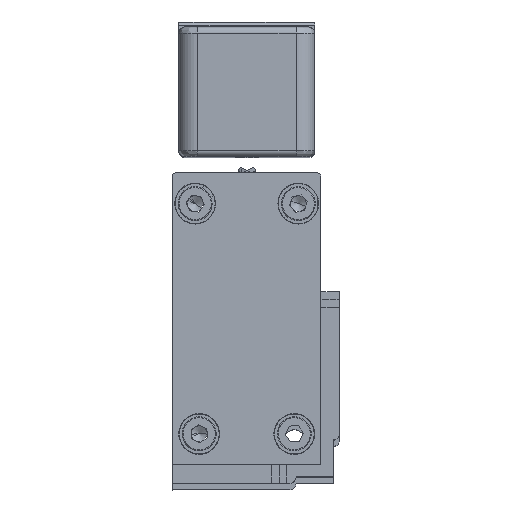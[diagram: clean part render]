
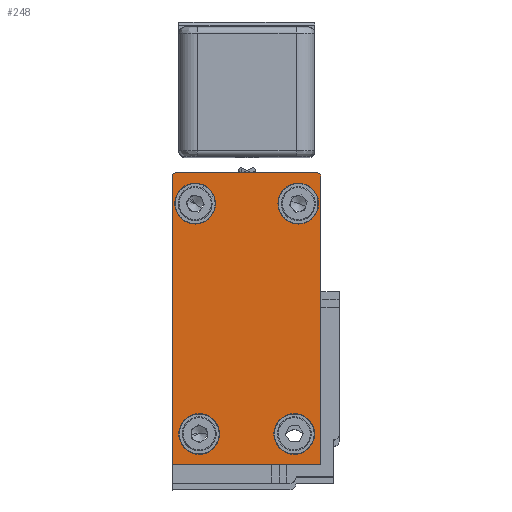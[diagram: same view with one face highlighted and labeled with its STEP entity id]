
A CAD part, top view. The second image highlights one B-rep face of the part: STEP entity #248.
In plain terms, the highlighted planar face has unit normal (0, 0, 1).
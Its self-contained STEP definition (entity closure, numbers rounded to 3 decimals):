
#81 = CIRCLE ( 'NONE', #20372, 3.302 ) ;
#248 = ADVANCED_FACE ( 'NONE', ( #12638, #19347, #18587, #11833, #4981 ), #12829, .T. ) ;
#809 = EDGE_LOOP ( 'NONE', ( #22280, #31135, #12102, #14694, #25660, #4772, #17775 ) ) ;
#922 = CARTESIAN_POINT ( 'NONE',  ( -17.017, -15.887, 3185. ) ) ;
#978 = CARTESIAN_POINT ( 'NONE',  ( 1.676, -15.887, 3185. ) ) ;
#1004 = DIRECTION ( 'NONE',  ( 0., 0., 1. ) ) ;
#1536 = CARTESIAN_POINT ( 'NONE',  ( -17.667, 21.401, 3185. ) ) ;
#1592 = AXIS2_PLACEMENT_3D ( 'NONE', #16421, #1004, #18915 ) ;
#2560 = EDGE_CURVE ( 'NONE', #2986, #30440, #31976, .T. ) ;
#2986 = VERTEX_POINT ( 'NONE', #30742 ) ;
#3241 = CARTESIAN_POINT ( 'NONE',  ( 5.984, 7.11, 3185. ) ) ;
#3392 = ORIENTED_EDGE ( 'NONE', *, *, #10240, .T. ) ;
#3401 = EDGE_CURVE ( 'NONE', #13716, #2986, #3797, .T. ) ;
#3568 = DIRECTION ( 'NONE',  ( -1., 0., 0. ) ) ;
#3590 = CARTESIAN_POINT ( 'NONE',  ( 5.485, 26.371, 3185. ) ) ;
#3681 = EDGE_CURVE ( 'NONE', #28387, #10346, #10620, .T. ) ;
#3797 = LINE ( 'NONE', #3241, #29929 ) ;
#4109 = EDGE_CURVE ( 'NONE', #24294, #18788, #29471, .T. ) ;
#4360 = CARTESIAN_POINT ( 'NONE',  ( -0.967, 21.401, 3185. ) ) ;
#4540 = AXIS2_PLACEMENT_3D ( 'NONE', #12631, #12625, #12592 ) ;
#4772 = ORIENTED_EDGE ( 'NONE', *, *, #4109, .T. ) ;
#4981 = FACE_OUTER_BOUND ( 'NONE', #809, .T. ) ;
#5057 = DIRECTION ( 'NONE',  ( 0., 0., -1. ) ) ;
#5627 = CARTESIAN_POINT ( 'NONE',  ( -18.014, 25.871, 3185. ) ) ;
#5756 = VECTOR ( 'NONE', #29345, 1000. ) ;
#5802 = DIRECTION ( 'NONE',  ( 0., 0., -1. ) ) ;
#6058 = DIRECTION ( 'NONE',  ( 0., 1., 0. ) ) ;
#6100 = CIRCLE ( 'NONE', #11189, 3.302 ) ;
#6451 = VERTEX_POINT ( 'NONE', #7942 ) ;
#6696 = AXIS2_PLACEMENT_3D ( 'NONE', #27916, #12885, #30411 ) ;
#7048 = ORIENTED_EDGE ( 'NONE', *, *, #10190, .T. ) ;
#7321 = DIRECTION ( 'NONE',  ( 0., 0., -1. ) ) ;
#7667 = EDGE_CURVE ( 'NONE', #13029, #13716, #10676, .T. ) ;
#7942 = CARTESIAN_POINT ( 'NONE',  ( -1.626, -15.887, 3185. ) ) ;
#8072 = AXIS2_PLACEMENT_3D ( 'NONE', #29810, #14861, #32325 ) ;
#8534 = CIRCLE ( 'NONE', #32011, 3.302 ) ;
#8606 = CARTESIAN_POINT ( 'NONE',  ( -14.365, 21.401, 3185. ) ) ;
#8680 = EDGE_CURVE ( 'NONE', #23187, #17933, #81, .T. ) ;
#8716 = CARTESIAN_POINT ( 'NONE',  ( -11.063, 21.401, 3185. ) ) ;
#9277 = CIRCLE ( 'NONE', #21060, 3.302 ) ;
#10154 = VECTOR ( 'NONE', #17948, 1000. ) ;
#10190 = EDGE_CURVE ( 'NONE', #15949, #6451, #8534, .T. ) ;
#10240 = EDGE_CURVE ( 'NONE', #10346, #28387, #6100, .T. ) ;
#10346 = VERTEX_POINT ( 'NONE', #8716 ) ;
#10620 = CIRCLE ( 'NONE', #16884, 3.302 ) ;
#10676 = LINE ( 'NONE', #21296, #16679 ) ;
#10858 = EDGE_CURVE ( 'NONE', #11235, #28877, #32171, .T. ) ;
#11189 = AXIS2_PLACEMENT_3D ( 'NONE', #8606, #26285, #11205 ) ;
#11205 = DIRECTION ( 'NONE',  ( -1., 0., 0. ) ) ;
#11235 = VERTEX_POINT ( 'NONE', #4360 ) ;
#11754 = ORIENTED_EDGE ( 'NONE', *, *, #16542, .T. ) ;
#11800 = CARTESIAN_POINT ( 'NONE',  ( 5.637, 21.401, 3185. ) ) ;
#11833 = FACE_BOUND ( 'NONE', #12109, .T. ) ;
#11965 = CARTESIAN_POINT ( 'NONE',  ( -13.714, -15.887, 3185. ) ) ;
#12102 = ORIENTED_EDGE ( 'NONE', *, *, #2560, .T. ) ;
#12109 = EDGE_LOOP ( 'NONE', ( #15521, #18745 ) ) ;
#12115 = DIRECTION ( 'NONE',  ( 0., 0., -1. ) ) ;
#12592 = DIRECTION ( 'NONE',  ( -1., 0., 0. ) ) ;
#12625 = DIRECTION ( 'NONE',  ( 0., 0., 1. ) ) ;
#12631 = CARTESIAN_POINT ( 'NONE',  ( -18.014, -20.888, 3185. ) ) ;
#12638 = FACE_BOUND ( 'NONE', #27380, .T. ) ;
#12829 = PLANE ( 'NONE',  #4540 ) ;
#12885 = DIRECTION ( 'NONE',  ( 0., 0., -1. ) ) ;
#13029 = VERTEX_POINT ( 'NONE', #20612 ) ;
#13636 = EDGE_CURVE ( 'NONE', #24294, #20297, #22006, .T. ) ;
#13716 = VERTEX_POINT ( 'NONE', #30638 ) ;
#14542 = DIRECTION ( 'NONE',  ( -1., 0., 0. ) ) ;
#14694 = ORIENTED_EDGE ( 'NONE', *, *, #27877, .T. ) ;
#14861 = DIRECTION ( 'NONE',  ( 0., 0., -1. ) ) ;
#14862 = DIRECTION ( 'NONE',  ( -1., 0., 0. ) ) ;
#15079 = AXIS2_PLACEMENT_3D ( 'NONE', #22539, #7321, #25056 ) ;
#15211 = CARTESIAN_POINT ( 'NONE',  ( 4.978, -15.887, 3185. ) ) ;
#15521 = ORIENTED_EDGE ( 'NONE', *, *, #8680, .T. ) ;
#15949 = VERTEX_POINT ( 'NONE', #15211 ) ;
#16421 = CARTESIAN_POINT ( 'NONE',  ( 5.485, 25.871, 3185. ) ) ;
#16542 = EDGE_CURVE ( 'NONE', #6451, #15949, #27850, .T. ) ;
#16679 = VECTOR ( 'NONE', #6058, 1000. ) ;
#16681 = CIRCLE ( 'NONE', #8072, 3.302 ) ;
#16884 = AXIS2_PLACEMENT_3D ( 'NONE', #27162, #12115, #29666 ) ;
#17034 = AXIS2_PLACEMENT_3D ( 'NONE', #978, #18893, #3568 ) ;
#17775 = ORIENTED_EDGE ( 'NONE', *, *, #32013, .T. ) ;
#17933 = VERTEX_POINT ( 'NONE', #27066 ) ;
#17948 = DIRECTION ( 'NONE',  ( 0., -1., 0. ) ) ;
#18587 = FACE_BOUND ( 'NONE', #29762, .T. ) ;
#18745 = ORIENTED_EDGE ( 'NONE', *, *, #22016, .T. ) ;
#18788 = VERTEX_POINT ( 'NONE', #19905 ) ;
#18893 = DIRECTION ( 'NONE',  ( 0., 0., -1. ) ) ;
#18915 = DIRECTION ( 'NONE',  ( 0., 1., 0. ) ) ;
#19299 = LINE ( 'NONE', #24297, #5756 ) ;
#19347 = FACE_BOUND ( 'NONE', #32909, .T. ) ;
#19905 = CARTESIAN_POINT ( 'NONE',  ( -18.014, -20.888, 3185. ) ) ;
#20232 = VECTOR ( 'NONE', #14862, 1000. ) ;
#20297 = VERTEX_POINT ( 'NONE', #24804 ) ;
#20303 = CARTESIAN_POINT ( 'NONE',  ( -13.714, -15.887, 3185. ) ) ;
#20372 = AXIS2_PLACEMENT_3D ( 'NONE', #11965, #29522, #14542 ) ;
#20612 = CARTESIAN_POINT ( 'NONE',  ( 5.984, -20.888, 3185. ) ) ;
#21057 = CARTESIAN_POINT ( 'NONE',  ( 1.676, -15.887, 3185. ) ) ;
#21060 = AXIS2_PLACEMENT_3D ( 'NONE', #20303, #5057, #22808 ) ;
#21296 = CARTESIAN_POINT ( 'NONE',  ( 5.984, -20.888, 3185. ) ) ;
#22006 = CIRCLE ( 'NONE', #6696, 0.5 ) ;
#22016 = EDGE_CURVE ( 'NONE', #17933, #23187, #9277, .T. ) ;
#22280 = ORIENTED_EDGE ( 'NONE', *, *, #7667, .T. ) ;
#22283 = CARTESIAN_POINT ( 'NONE',  ( 5.485, 26.371, 3185. ) ) ;
#22539 = CARTESIAN_POINT ( 'NONE',  ( 2.335, 21.401, 3185. ) ) ;
#22808 = DIRECTION ( 'NONE',  ( -1., 0., 0. ) ) ;
#23187 = VERTEX_POINT ( 'NONE', #922 ) ;
#23533 = DIRECTION ( 'NONE',  ( -1., 0., 0. ) ) ;
#23559 = DIRECTION ( 'NONE',  ( 0., 1., 0. ) ) ;
#24294 = VERTEX_POINT ( 'NONE', #5627 ) ;
#24297 = CARTESIAN_POINT ( 'NONE',  ( -18.014, -20.888, 3185. ) ) ;
#24804 = CARTESIAN_POINT ( 'NONE',  ( -17.514, 26.371, 3185. ) ) ;
#25056 = DIRECTION ( 'NONE',  ( -1., 0., 0. ) ) ;
#25660 = ORIENTED_EDGE ( 'NONE', *, *, #13636, .F. ) ;
#26285 = DIRECTION ( 'NONE',  ( 0., 0., -1. ) ) ;
#26890 = LINE ( 'NONE', #22283, #20232 ) ;
#27066 = CARTESIAN_POINT ( 'NONE',  ( -10.412, -15.887, 3185. ) ) ;
#27162 = CARTESIAN_POINT ( 'NONE',  ( -14.365, 21.401, 3185. ) ) ;
#27380 = EDGE_LOOP ( 'NONE', ( #28975, #3392 ) ) ;
#27850 = CIRCLE ( 'NONE', #17034, 3.302 ) ;
#27877 = EDGE_CURVE ( 'NONE', #30440, #20297, #26890, .T. ) ;
#27916 = CARTESIAN_POINT ( 'NONE',  ( -17.514, 25.871, 3185. ) ) ;
#28387 = VERTEX_POINT ( 'NONE', #1536 ) ;
#28877 = VERTEX_POINT ( 'NONE', #11800 ) ;
#28899 = ORIENTED_EDGE ( 'NONE', *, *, #10858, .T. ) ;
#28975 = ORIENTED_EDGE ( 'NONE', *, *, #3681, .T. ) ;
#29345 = DIRECTION ( 'NONE',  ( 1., 0., 0. ) ) ;
#29436 = ORIENTED_EDGE ( 'NONE', *, *, #30655, .T. ) ;
#29471 = LINE ( 'NONE', #32903, #10154 ) ;
#29522 = DIRECTION ( 'NONE',  ( 0., 0., -1. ) ) ;
#29666 = DIRECTION ( 'NONE',  ( -1., 0., 0. ) ) ;
#29762 = EDGE_LOOP ( 'NONE', ( #11754, #7048 ) ) ;
#29810 = CARTESIAN_POINT ( 'NONE',  ( 2.335, 21.401, 3185. ) ) ;
#29929 = VECTOR ( 'NONE', #23559, 1000. ) ;
#30411 = DIRECTION ( 'NONE',  ( 0., 1., 0. ) ) ;
#30440 = VERTEX_POINT ( 'NONE', #3590 ) ;
#30638 = CARTESIAN_POINT ( 'NONE',  ( 5.984, 7.11, 3185. ) ) ;
#30655 = EDGE_CURVE ( 'NONE', #28877, #11235, #16681, .T. ) ;
#30742 = CARTESIAN_POINT ( 'NONE',  ( 5.984, 25.871, 3185. ) ) ;
#31135 = ORIENTED_EDGE ( 'NONE', *, *, #3401, .T. ) ;
#31976 = CIRCLE ( 'NONE', #1592, 0.5 ) ;
#32011 = AXIS2_PLACEMENT_3D ( 'NONE', #21057, #5802, #23533 ) ;
#32013 = EDGE_CURVE ( 'NONE', #18788, #13029, #19299, .T. ) ;
#32171 = CIRCLE ( 'NONE', #15079, 3.302 ) ;
#32325 = DIRECTION ( 'NONE',  ( -1., 0., 0. ) ) ;
#32903 = CARTESIAN_POINT ( 'NONE',  ( -18.014, 25.871, 3185. ) ) ;
#32909 = EDGE_LOOP ( 'NONE', ( #28899, #29436 ) ) ;
